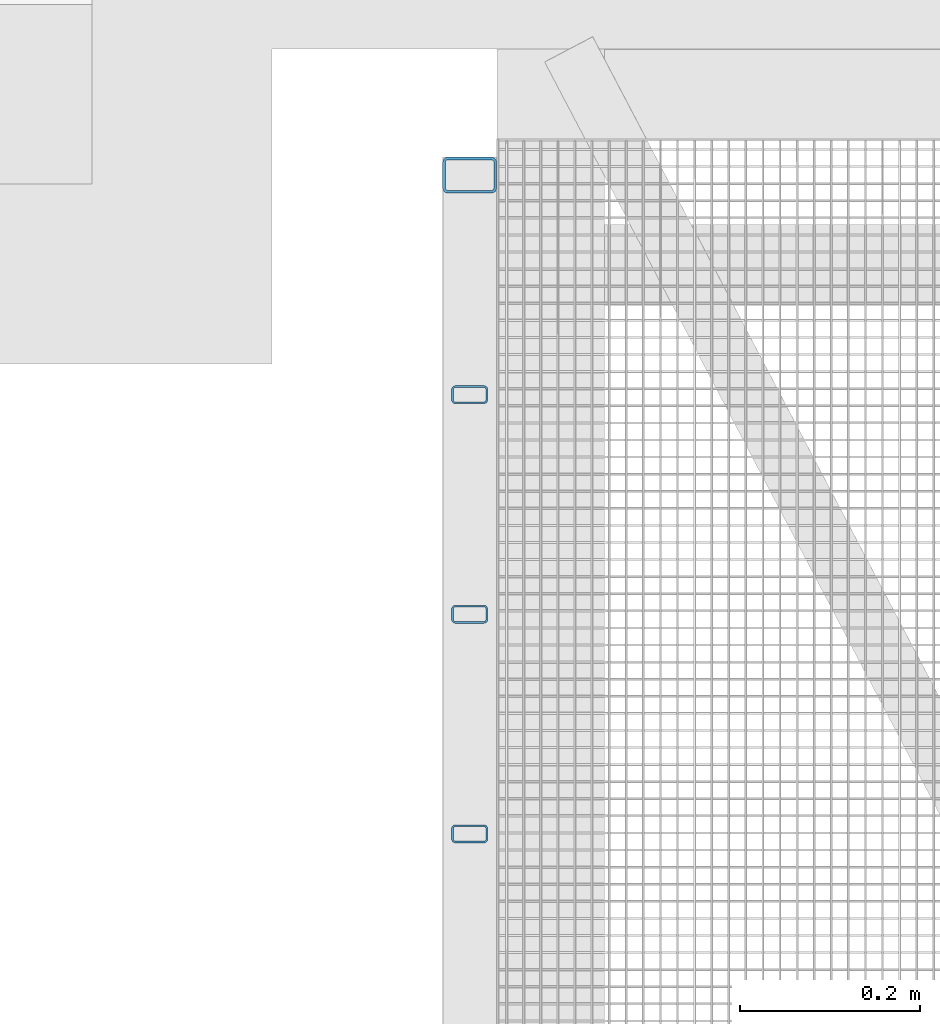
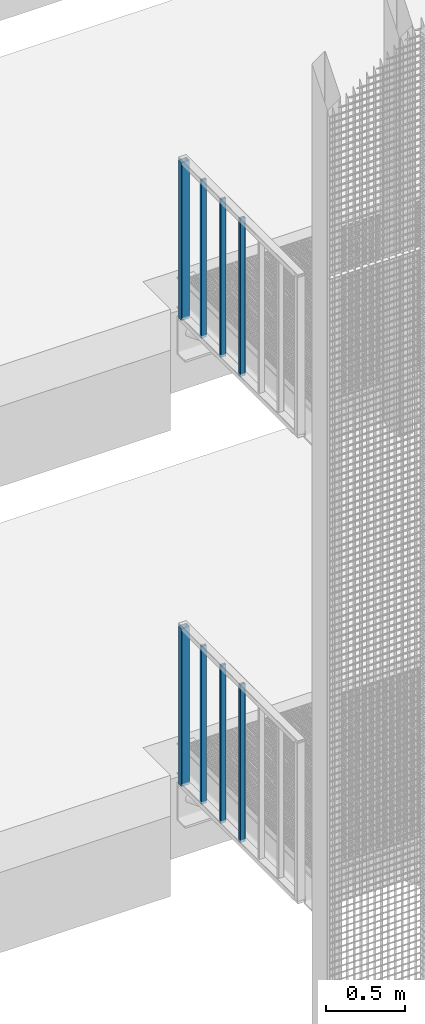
# One storey, part 28 of 1183: 8 columns, 8 elements without a shape of their own.
"""IFC2X3 building model written with IfcOpenShell, lengths in millimetres."""

import ifcopenshell
import ifcopenshell.guid

model = None  # the IFC model being written
_history = None  # IfcOwnerHistory: only IFC2X3 demands one
_inside = {}  # id of a spatial element -> (the spatial element, [elements in it])
_under = {}  # id of a project, library or spatial element -> (it, [spatial elements below it])
_declared = {}  # id of a project -> (the project, [libraries it declares])
_typed = {}  # id of a type object -> (the type object, [elements of that type])
_made_of = {}  # id of a material, layer set ... -> (it, [elements and type objects made of it])


def new_model(schema):
    """Start an empty IFC model of exactly this schema.

    Asked for "IFC4X3", IfcOpenShell would pick the latest addendum, in which some entities
    have other attributes; the version numbers below select the first issue.
    IFC2X3 requires an IfcOwnerHistory on every rooted entity: one is made here for all.
    """
    global model, _history
    if schema == "IFC4X3":
        model = ifcopenshell.file(schema_version=(4, 3, 0, 0))
    else:
        model = ifcopenshell.file(schema=schema)
    _inside.clear()
    _under.clear()
    _declared.clear()
    _typed.clear()
    _made_of.clear()
    _history = None
    if model.schema == "IFC2X3":
        org = make("IfcOrganization", Name="unknown")
        user = make(
            "IfcPersonAndOrganization",
            ThePerson=make("IfcPerson", FamilyName="unknown"),
            TheOrganization=org,
        )
        app = make(
            "IfcApplication",
            ApplicationDeveloper=org,
            Version="unknown",
            ApplicationFullName="unknown",
            ApplicationIdentifier="unknown",
        )
        _history = make(
            "IfcOwnerHistory",
            OwningUser=user,
            OwningApplication=app,
            ChangeAction="ADDED",
            CreationDate=0,
        )
    return model


def make(cls, **values):
    """One entity of the class cls with the attributes given. An attribute that is None is left unset."""
    return model.create_entity(
        cls, **{name: value for name, value in values.items() if value is not None}
    )


def rooted(cls, **values):
    """An entity with a GlobalId (a new one), such as an element, a storey or a relation."""
    return make(cls, GlobalId=ifcopenshell.guid.new(), OwnerHistory=_history, **values)


def si_unit(unit_type, name, prefix=None):
    """IfcSIUnit, for example si_unit("LENGTHUNIT", "METRE", prefix="MILLI")."""
    return make("IfcSIUnit", UnitType=unit_type, Prefix=prefix, Name=name)


def assignment(units):
    """IfcUnitAssignment: the units of a project."""
    return None if units is None else make("IfcUnitAssignment", Units=units)


def point(xyz):
    """IfcCartesianPoint."""
    return None if xyz is None else make("IfcCartesianPoint", Coordinates=xyz)


def direction(xyz):
    """IfcDirection."""
    return None if xyz is None else make("IfcDirection", DirectionRatios=xyz)


def frame(location, z_axis=None, x_axis=None):
    """IfcAxis2Placement3D, a coordinate frame: its origin and axes. An axis left out is left unset."""
    return make(
        "IfcAxis2Placement3D",
        Location=point(location),
        Axis=direction(z_axis),
        RefDirection=direction(x_axis),
    )


def frame_2d(location, x_axis=None):
    """IfcAxis2Placement2D, a coordinate frame in the plane: its origin and x axis."""
    return make(
        "IfcAxis2Placement2D", Location=point(location), RefDirection=direction(x_axis)
    )


def origin_with_axes():
    """The frame at (0, 0, 0) with the z axis (0, 0, 1) and the x axis (1, 0, 0) written out."""
    return frame((0.0, 0.0, 0.0), z_axis=(0.0, 0.0, 1.0), x_axis=(1.0, 0.0, 0.0))


def origin_2d_with_axis():
    """The frame at (0, 0) in the plane with the x axis (1, 0) written out."""
    return frame_2d((0.0, 0.0), x_axis=(1.0, 0.0))


def place(relative_to, where):
    """IfcLocalPlacement: puts the frame where relative to a parent placement (None: the world)."""
    return make(
        "IfcLocalPlacement", PlacementRelTo=relative_to, RelativePlacement=where
    )


def context(
    kind, dimensions, precision=None, world=None, true_north=None, identifier=None
):
    """IfcGeometricRepresentationContext, for example the 3D "Model" context."""
    return make(
        "IfcGeometricRepresentationContext",
        ContextIdentifier=identifier,
        ContextType=kind,
        CoordinateSpaceDimension=dimensions,
        Precision=precision,
        WorldCoordinateSystem=world,
        TrueNorth=true_north,
    )


def subcontext(parent, identifier, kind, view, scale=None):
    """IfcGeometricRepresentationSubContext, for example "Body" below "Model"."""
    return make(
        "IfcGeometricRepresentationSubContext",
        ContextIdentifier=identifier,
        ContextType=kind,
        ParentContext=parent,
        TargetScale=scale,
        TargetView=view,
    )


def project(units=None, contexts=None):
    """IfcProject with its units and contexts."""
    return rooted(
        "IfcProject",
        Name="project",
        RepresentationContexts=contexts,
        UnitsInContext=assignment(units),
    )


def spatial(cls, under=None, at=None, **own):
    """A site, building, storey or space (cls), placed at a placement, below another one or the project."""
    s = rooted(cls, ObjectPlacement=at, **own)
    if under is not None:
        _under.setdefault(under.id(), (under, []))[1].append(s)
    return s


def profile(cls, at=None, kind="AREA", **sizes):
    """A parametric profile (cls). Its sizes go by their IFC names, for example OverallWidth=200.0."""
    return make(cls, ProfileType=kind, Position=at, **sizes)


def hollow_rectangle(**sizes):
    """IfcRectangleHollowProfileDef."""
    return profile("IfcRectangleHollowProfileDef", **sizes)


def extrude(swept, where, along, depth):
    """IfcExtrudedAreaSolid: the profile swept, set in the frame where, extruded along a direction by depth."""
    return make(
        "IfcExtrudedAreaSolid",
        SweptArea=swept,
        Position=where,
        ExtrudedDirection=direction(along),
        Depth=depth,
    )


def shape(context_of_items, identifier, shape_type, items):
    """IfcShapeRepresentation: the items that make up one representation, for example the "Body"."""
    return make(
        "IfcShapeRepresentation",
        ContextOfItems=context_of_items,
        RepresentationIdentifier=identifier,
        RepresentationType=shape_type,
        Items=items,
    )


def material(Name=None, Category=None):
    """IfcMaterial."""
    return make("IfcMaterial", Name=Name, Category=Category)


def made_of(thing, what):
    """Note that an element or type object is made of a material, layer set ...; save() writes the relation."""
    if what is not None:
        _made_of.setdefault(what.id(), (what, []))[1].append(thing)
    return thing


def type_object(cls, material=None, **own):
    """A type object (cls), such as IfcWallType, which elements share."""
    return made_of(rooted(cls, **own), material)


def element(
    cls,
    number,
    at=None,
    inside=None,
    cuts=None,
    type_object=None,
    material=None,
    context=None,
    identifier="Body",
    shape_type=None,
    held_by="IfcProductDefinitionShape",
    body=None,
    shapes=None,
    **own,
):
    """One element of the class cls, such as IfcWall. Its Tag is "e" and its number.

    at: its placement. inside: the storey or other place that contains it. cuts: it is an
    opening in that element (IfcRelVoidsElement). A single representation is given by context,
    identifier, shape_type and body (its items); several are given by shapes. held_by: the class
    of the entity that holds the representations. save() writes the other relations.
    """
    e = rooted(cls, Tag="e%d" % number, ObjectPlacement=at, **own)
    if body is not None:
        shapes = [shape(context, identifier, shape_type, body)]
    if shapes is not None:
        e.Representation = make(held_by, Representations=shapes)
    if inside is not None:
        _inside.setdefault(inside.id(), (inside, []))[1].append(e)
    if cuts is not None:
        rooted(
            "IfcRelVoidsElement", RelatingBuildingElement=cuts, RelatedOpeningElement=e
        )
    if type_object is not None:
        _typed.setdefault(type_object.id(), (type_object, []))[1].append(e)
    return made_of(e, material)


def aggregate(whole, parts):
    """IfcRelAggregates: a whole, such as a stair, and the parts it consists of."""
    return rooted("IfcRelAggregates", RelatingObject=whole, RelatedObjects=parts)


def save(model, path):
    """Write the relations noted so far, then the file.

    IfcRelAggregates (storeys below a building ...), IfcRelContainedInSpatialStructure (elements
    in a storey), IfcRelDefinesByType, IfcRelAssociatesMaterial and IfcRelDeclares: one each for
    every whole, place, type object, material and project.
    """
    for whole, parts in _under.values():
        aggregate(whole, parts)
    for where, things in _inside.values():
        rooted(
            "IfcRelContainedInSpatialStructure",
            RelatedElements=things,
            RelatingStructure=where,
        )
    for kind, things in _typed.values():
        rooted("IfcRelDefinesByType", RelatedObjects=things, RelatingType=kind)
    for what, things in _made_of.values():
        rooted("IfcRelAssociatesMaterial", RelatedObjects=things, RelatingMaterial=what)
    for by, libraries in _declared.values():
        rooted("IfcRelDeclares", RelatingContext=by, RelatedDefinitions=libraries)
    model.write(path)


model = new_model("IFC2X3")

# Units and contexts
model_context = context("Model", 3, precision=1e-05, world=origin_with_axes())
body_context = subcontext(model_context, "Body", "Model", "MODEL_VIEW")
ifc_project = project(units=[si_unit("LENGTHUNIT", "METRE", prefix="MILLI"), si_unit("AREAUNIT", "SQUARE_METRE"), si_unit("VOLUMEUNIT", "CUBIC_METRE"), si_unit("MASSUNIT", "GRAM", prefix="KILO"), si_unit("TIMEUNIT", "SECOND"), si_unit("PLANEANGLEUNIT", "RADIAN"), si_unit("SOLIDANGLEUNIT", "STERADIAN"), si_unit("THERMODYNAMICTEMPERATUREUNIT", "DEGREE_CELSIUS"), si_unit("LUMINOUSINTENSITYUNIT", "LUMEN")], contexts=[model_context])

# Site, building, storey
site_placement = place(None, origin_with_axes())
site = spatial("IfcSite", under=ifc_project, at=site_placement, Name="Undefined", CompositionType="ELEMENT")
building_placement = place(site_placement, origin_with_axes())
building = spatial("IfcBuilding", under=site, at=building_placement, Name="Undefined", CompositionType="ELEMENT")
storey_placement = place(building_placement, origin_with_axes())
storey = spatial("IfcBuildingStorey", under=building, at=storey_placement, Name="Undefined", CompositionType="ELEMENT", Elevation=0.0)

# Assembly, column
assembly_1_placement = place(storey_placement, origin_with_axes())
assembly_1 = element("IfcElementAssembly", 1, at=assembly_1_placement, inside=storey, Name="STANCHION", AssemblyPlace="NOTDEFINED", PredefinedType="NOTDEFINED")
ifc_material = material(Name="Undefined/FE510D")
column_type_1 = type_object("IfcColumnType", Name="TUBE-R-40*20*2", PredefinedType="NOTDEFINED")
column_1_placement = place(assembly_1_placement, frame((-1580.06490345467, 2415.85979616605, 9820.0), z_axis=(0.0, 0.0, 1.0), x_axis=(-0.999999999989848, 4.50600000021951e-06, 0.0)))
column_1 = element("IfcColumn", 2, at=column_1_placement, type_object=column_type_1, material=ifc_material, Name="STANCHION", context=body_context, shape_type="SweptSolid", body=[
    extrude(hollow_rectangle(XDim=20.0, YDim=40.0, WallThickness=2.0, InnerFilletRadius=2.0, OuterFilletRadius=4.0, at=origin_2d_with_axis()), frame((0.0, 0.0, 1219.99999999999), z_axis=(0.0, 0.0, -1.0), x_axis=(0.0, 1.0, 0.0)), (0.0, 0.0, 1.0), 1220.0),
])
aggregate(assembly_1, [column_1])

assembly_2_placement = place(storey_placement, origin_with_axes())
assembly_2 = element("IfcElementAssembly", 3, at=assembly_2_placement, inside=storey, Name="STANCHION", AssemblyPlace="NOTDEFINED", PredefinedType="NOTDEFINED")
column_2_placement = place(assembly_2_placement, frame((-1580.06600368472, 2171.68979616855, 9820.0), z_axis=(0.0, 0.0, 1.0), x_axis=(-0.999999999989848, 4.50600000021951e-06, 0.0)))
column_2 = element("IfcColumn", 4, at=column_2_placement, type_object=column_type_1, material=ifc_material, Name="STANCHION", context=body_context, shape_type="SweptSolid", body=[
    extrude(hollow_rectangle(XDim=20.0, YDim=40.0, WallThickness=2.0, InnerFilletRadius=2.0, OuterFilletRadius=4.0, at=origin_2d_with_axis()), frame((0.0, 0.0, 1219.99999999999), z_axis=(0.0, 0.0, -1.0), x_axis=(0.0, 1.0, 0.0)), (0.0, 0.0, 1.0), 1220.0),
])
aggregate(assembly_2, [column_2])

assembly_3_placement = place(storey_placement, origin_with_axes())
assembly_3 = element("IfcElementAssembly", 5, at=assembly_3_placement, inside=storey, Name="STANCHION", AssemblyPlace="NOTDEFINED", PredefinedType="NOTDEFINED")
column_3_placement = place(assembly_3_placement, frame((-1580.06710391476, 1927.51979617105, 9820.0), z_axis=(0.0, 0.0, 1.0), x_axis=(-0.999999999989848, 4.50600000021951e-06, 0.0)))
column_3 = element("IfcColumn", 6, at=column_3_placement, type_object=column_type_1, material=ifc_material, Name="STANCHION", context=body_context, shape_type="SweptSolid", body=[
    extrude(hollow_rectangle(XDim=20.0, YDim=40.0, WallThickness=2.0, InnerFilletRadius=2.0, OuterFilletRadius=4.0, at=origin_2d_with_axis()), frame((0.0, 0.0, 1219.99999999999), z_axis=(0.0, 0.0, -1.0), x_axis=(0.0, 1.0, 0.0)), (0.0, 0.0, 1.0), 1220.0),
])
aggregate(assembly_3, [column_3])

assembly_4_placement = place(storey_placement, origin_with_axes())
assembly_4 = element("IfcElementAssembly", 7, at=assembly_4_placement, inside=storey, Name="STANCHION", AssemblyPlace="NOTDEFINED", PredefinedType="NOTDEFINED")
column_4_placement = place(assembly_4_placement, frame((-1580.06490345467, 2415.85979616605, 6220.0), z_axis=(0.0, 0.0, 1.0), x_axis=(-0.999999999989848, 4.50600000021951e-06, 0.0)))
column_4 = element("IfcColumn", 8, at=column_4_placement, type_object=column_type_1, material=ifc_material, Name="STANCHION", context=body_context, shape_type="SweptSolid", body=[
    extrude(hollow_rectangle(XDim=20.0, YDim=40.0, WallThickness=2.0, InnerFilletRadius=2.0, OuterFilletRadius=4.0, at=origin_2d_with_axis()), frame((0.0, 0.0, 1219.99999999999), z_axis=(0.0, 0.0, -1.0), x_axis=(0.0, 1.0, 0.0)), (0.0, 0.0, 1.0), 1220.0),
])
aggregate(assembly_4, [column_4])

assembly_5_placement = place(storey_placement, origin_with_axes())
assembly_5 = element("IfcElementAssembly", 9, at=assembly_5_placement, inside=storey, Name="STANCHION", AssemblyPlace="NOTDEFINED", PredefinedType="NOTDEFINED")
column_5_placement = place(assembly_5_placement, frame((-1580.06600368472, 2171.68979616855, 6220.0), z_axis=(0.0, 0.0, 1.0), x_axis=(-0.999999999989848, 4.50600000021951e-06, 0.0)))
column_5 = element("IfcColumn", 10, at=column_5_placement, type_object=column_type_1, material=ifc_material, Name="STANCHION", context=body_context, shape_type="SweptSolid", body=[
    extrude(hollow_rectangle(XDim=20.0, YDim=40.0, WallThickness=2.0, InnerFilletRadius=2.0, OuterFilletRadius=4.0, at=origin_2d_with_axis()), frame((0.0, 0.0, 1219.99999999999), z_axis=(0.0, 0.0, -1.0), x_axis=(0.0, 1.0, 0.0)), (0.0, 0.0, 1.0), 1220.0),
])
aggregate(assembly_5, [column_5])

assembly_6_placement = place(storey_placement, origin_with_axes())
assembly_6 = element("IfcElementAssembly", 11, at=assembly_6_placement, inside=storey, Name="STANCHION", AssemblyPlace="NOTDEFINED", PredefinedType="NOTDEFINED")
column_6_placement = place(assembly_6_placement, frame((-1580.06710391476, 1927.51979617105, 6220.0), z_axis=(0.0, 0.0, 1.0), x_axis=(-0.999999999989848, 4.50600000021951e-06, 0.0)))
column_6 = element("IfcColumn", 12, at=column_6_placement, type_object=column_type_1, material=ifc_material, Name="STANCHION", context=body_context, shape_type="SweptSolid", body=[
    extrude(hollow_rectangle(XDim=20.0, YDim=40.0, WallThickness=2.0, InnerFilletRadius=2.0, OuterFilletRadius=4.0, at=origin_2d_with_axis()), frame((0.0, 0.0, 1219.99999999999), z_axis=(0.0, 0.0, -1.0), x_axis=(0.0, 1.0, 0.0)), (0.0, 0.0, 1.0), 1220.0),
])
aggregate(assembly_6, [column_6])

assembly_7_placement = place(storey_placement, origin_with_axes())
assembly_7 = element("IfcElementAssembly", 13, at=assembly_7_placement, inside=storey, Name="STANCHION", AssemblyPlace="NOTDEFINED", PredefinedType="NOTDEFINED")
column_type_2 = type_object("IfcColumnType", Name="TUBE-R-60*40*3", PredefinedType="NOTDEFINED")
column_7_placement = place(assembly_7_placement, frame((-1580.06365344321, 2660.00840282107, 9820.0), z_axis=(0.0, 0.0, 1.0), x_axis=(-0.999999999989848, 4.50600000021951e-06, 0.0)))
column_7 = element("IfcColumn", 14, at=column_7_placement, type_object=column_type_2, material=ifc_material, Name="STANCHION", context=body_context, shape_type="SweptSolid", body=[
    extrude(hollow_rectangle(XDim=40.0, YDim=60.0, WallThickness=3.0, InnerFilletRadius=3.0, OuterFilletRadius=6.0, at=origin_2d_with_axis()), frame((0.0, 0.0, 1219.99999999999), z_axis=(0.0, 0.0, -1.0), x_axis=(0.0, 1.0, 0.0)), (0.0, 0.0, 1.0), 1220.0),
])
aggregate(assembly_7, [column_7])

assembly_8_placement = place(storey_placement, origin_with_axes())
assembly_8 = element("IfcElementAssembly", 15, at=assembly_8_placement, inside=storey, Name="STANCHION", AssemblyPlace="NOTDEFINED", PredefinedType="NOTDEFINED")
column_8_placement = place(assembly_8_placement, frame((-1580.06365344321, 2660.00840282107, 6220.0), z_axis=(0.0, 0.0, 1.0), x_axis=(-0.999999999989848, 4.50600000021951e-06, 0.0)))
column_8 = element("IfcColumn", 16, at=column_8_placement, type_object=column_type_2, material=ifc_material, Name="STANCHION", context=body_context, shape_type="SweptSolid", body=[
    extrude(hollow_rectangle(XDim=40.0, YDim=60.0, WallThickness=3.0, InnerFilletRadius=3.0, OuterFilletRadius=6.0, at=origin_2d_with_axis()), frame((0.0, 0.0, 1219.99999999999), z_axis=(0.0, 0.0, -1.0), x_axis=(0.0, 1.0, 0.0)), (0.0, 0.0, 1.0), 1220.0),
])
aggregate(assembly_8, [column_8])

save(model, "model.ifc")
